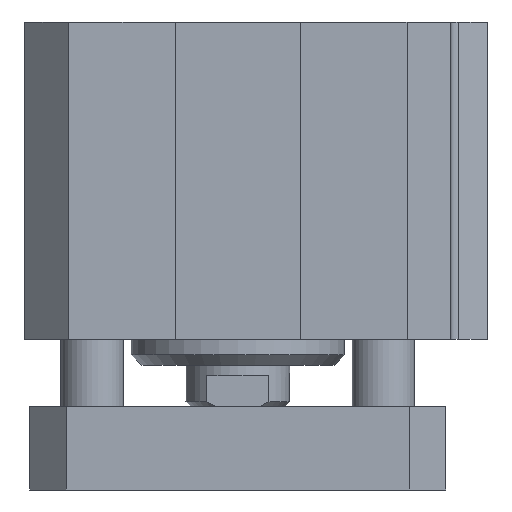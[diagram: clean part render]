
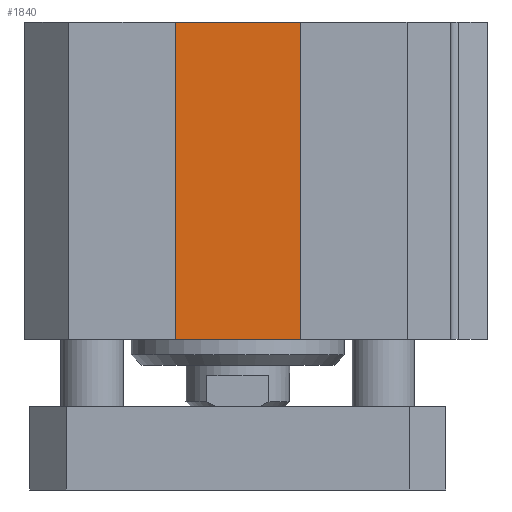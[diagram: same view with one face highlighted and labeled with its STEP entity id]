
A CAD part, left-side view. The second image highlights one B-rep face of the part: STEP entity #1840.
In plain terms, the highlighted planar face has unit normal (-1, 0, 0).
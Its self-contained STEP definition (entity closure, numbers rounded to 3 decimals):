
#37=LINE('',#2663,#179);
#76=LINE('',#2857,#218);
#77=LINE('',#2860,#219);
#78=LINE('',#2861,#220);
#179=VECTOR('',#2131,16.2);
#218=VECTOR('',#2330,30.5);
#219=VECTOR('',#2333,16.2);
#220=VECTOR('',#2334,30.5);
#336=PLANE('',#2003);
#514=FACE_OUTER_BOUND('',#663,.T.);
#663=EDGE_LOOP('',(#1370,#1371,#1372,#1373));
#855=VERTEX_POINT('',#2660);
#856=VERTEX_POINT('',#2662);
#931=VERTEX_POINT('',#2855);
#932=VERTEX_POINT('',#2859);
#1025=EDGE_CURVE('',#856,#855,#37,.T.);
#1105=EDGE_CURVE('',#855,#931,#76,.T.);
#1106=EDGE_CURVE('',#931,#932,#77,.T.);
#1107=EDGE_CURVE('',#856,#932,#78,.T.);
#1370=ORIENTED_EDGE('',*,*,#1106,.T.);
#1371=ORIENTED_EDGE('',*,*,#1107,.F.);
#1372=ORIENTED_EDGE('',*,*,#1025,.T.);
#1373=ORIENTED_EDGE('',*,*,#1105,.T.);
#1840=ADVANCED_FACE('',(#514),#336,.T.);
#2003=AXIS2_PLACEMENT_3D('',#2858,#2331,#2332);
#2131=DIRECTION('',(0.,1.,0.));
#2330=DIRECTION('',(0.,0.,-1.));
#2331=DIRECTION('center_axis',(-1.,0.,0.));
#2332=DIRECTION('ref_axis',(0.,0.,1.));
#2333=DIRECTION('',(0.,-1.,0.));
#2334=DIRECTION('',(0.,0.,-1.));
#2660=CARTESIAN_POINT('',(-15.,8.1,0.));
#2662=CARTESIAN_POINT('',(-15.,-8.1,0.));
#2663=CARTESIAN_POINT('',(-15.,-8.1,0.));
#2855=CARTESIAN_POINT('',(-15.,8.1,-30.5));
#2857=CARTESIAN_POINT('',(-15.,8.1,0.));
#2858=CARTESIAN_POINT('Origin',(-15.,8.1,0.));
#2859=CARTESIAN_POINT('',(-15.,-8.1,-30.5));
#2860=CARTESIAN_POINT('',(-15.,-8.1,-30.5));
#2861=CARTESIAN_POINT('',(-15.,-8.1,0.));
